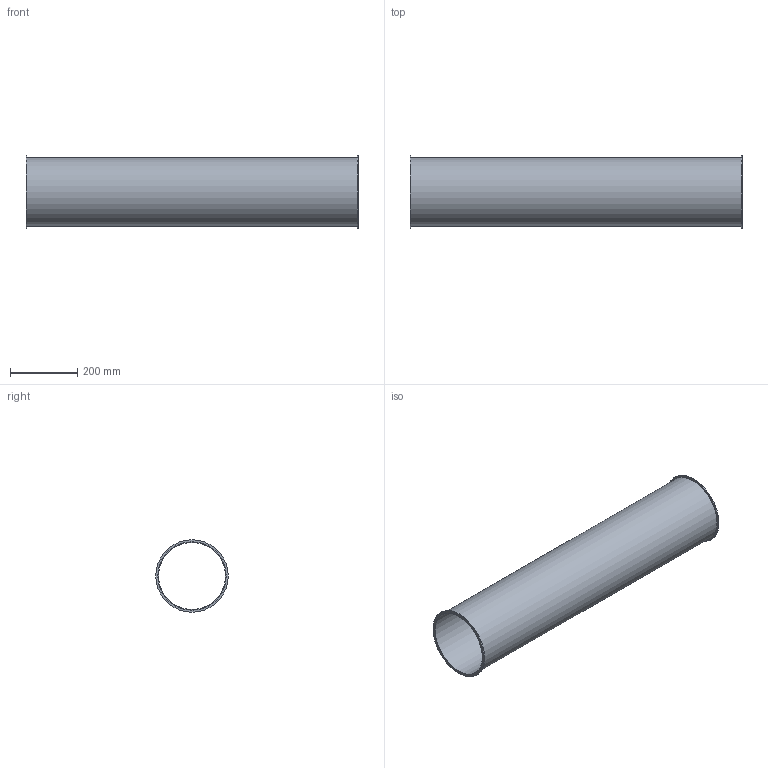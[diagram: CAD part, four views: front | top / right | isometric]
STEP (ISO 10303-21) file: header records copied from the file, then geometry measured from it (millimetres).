
FILE_DESCRIPTION((''),'2;1');
FILE_NAME('U:\Wolfgang\Marcel-3D\fertig\Kapitel 1\2021002.stp','2010-05-31T11:16:23',('TK2'),(''),'Autodesk Inventor 2010','Autodesk Inventor 2010','');
FILE_SCHEMA(('AUTOMOTIVE_DESIGN { 1 0 10303 214 1 1 1 1 }'));
Length unit declared in the file: millimetre
Products named in the file (1): 2021002
Bounding box: 986 x 215 x 215 mm (x, y, z)
Volume: 1260997.6 mm3; surface area: 1263674.2 mm2
Topology: 1 solids, 1 shells, 8 faces, 12 edges, 8 vertices
Faces by surface type: cylinder 4, plane 4
Full cylindrical faces by diameter (mm): 199 x1, 203 x1, 215 x2
Entity records: 194 total; most frequent: DIRECTION 34, CARTESIAN_POINT 25, AXIS2_PLACEMENT_3D 17, ORIENTED_EDGE 16, EDGE_LOOP 16, VERTEX_POINT 8, CIRCLE 8, EDGE_CURVE 8
